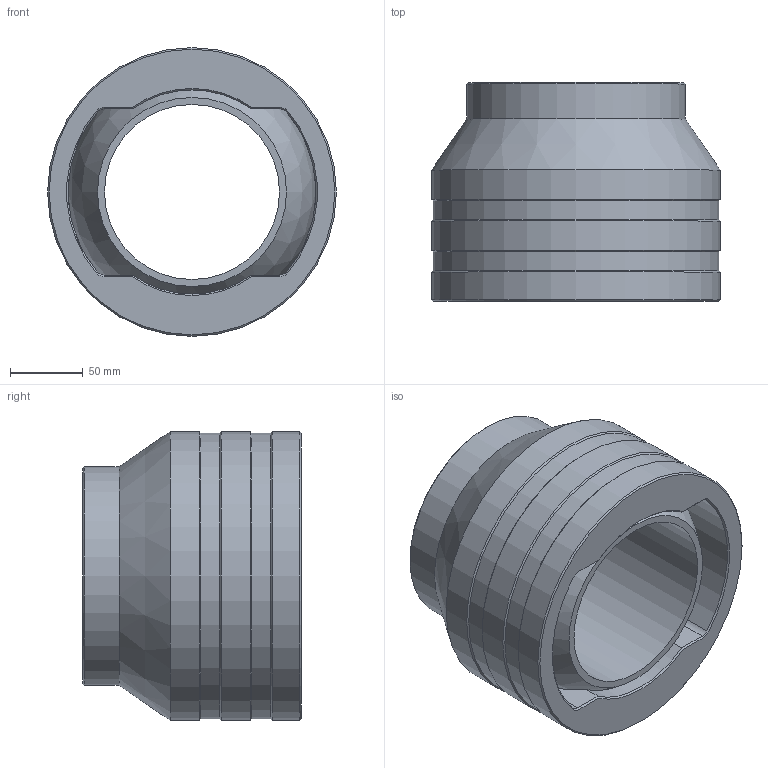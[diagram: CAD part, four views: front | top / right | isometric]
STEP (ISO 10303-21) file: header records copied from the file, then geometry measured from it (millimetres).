
FILE_DESCRIPTION(('STEP AP214'),'1');
FILE_NAME('C:/Projets/Serie 10.xx.xx/10.11.12.step','2011-11-10T15:42:06',(' '),(' '),'Spatial InterOp 3D',' ',' ');
FILE_SCHEMA(('automotive_design'));
Length unit declared in the file: metre
Products named in the file (3): boitier 12; rotule 12; 1
Bounding box: 198 x 150 x 198 mm (x, y, z)
Volume: 2082189.1 mm3; surface area: 286916.2 mm2
Topology: 2 solids, 2 shells, 49 faces, 1877 edges, 3602 vertices
Faces by surface type: cylinder 17, cone 17, plane 13, sphere 2
Full cylindrical faces by diameter (mm): 120 x1, 130 x1, 140 x1, 150 x1, 196 x2, 198 x3
Entity records: 22965 total; most frequent: CARTESIAN_POINT 2024, DIRECTION 2009, STYLED_ITEM 1821, PRESENTATION_STYLE_ASSIGNMENT 1821, COLOUR_RGB 1821, LINE 1791, VECTOR 1791, TRIMMED_CURVE 1772
